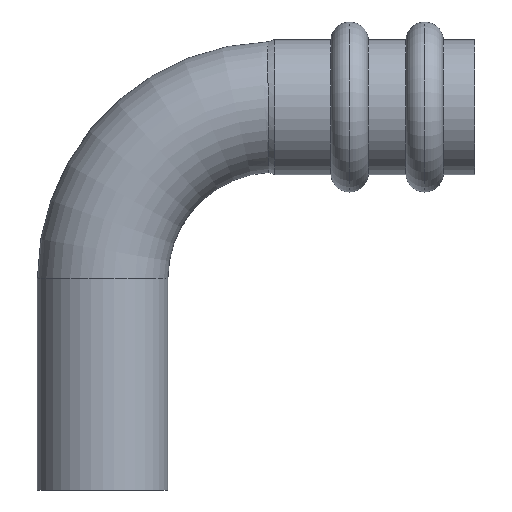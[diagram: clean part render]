
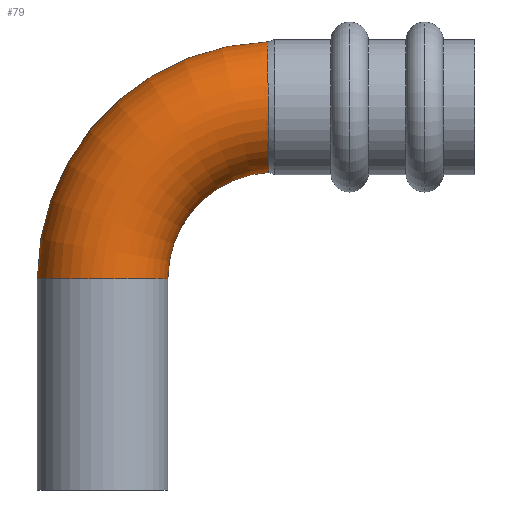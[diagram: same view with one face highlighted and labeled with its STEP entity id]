
A CAD part, front view. The second image highlights one B-rep face of the part: STEP entity #79.
In plain terms, the highlighted toroidal (fillet/blend) face has major radius 27.5 mm and minor radius 10.437 mm.
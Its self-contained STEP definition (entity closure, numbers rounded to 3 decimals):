
#79=ADVANCED_FACE('',(#202),#203,.T.);
#202=FACE_OUTER_BOUND('',#377,.T.);
#203=TOROIDAL_SURFACE('',#378,27.5,10.437);
#377=EDGE_LOOP('',(#553,#554,#555,#556,#557));
#378=AXIS2_PLACEMENT_3D('',#558,#559,#560);
#553=ORIENTED_EDGE('',*,*,#977,.F.);
#554=ORIENTED_EDGE('',*,*,#978,.T.);
#555=ORIENTED_EDGE('',*,*,#979,.T.);
#556=ORIENTED_EDGE('',*,*,#980,.F.);
#557=ORIENTED_EDGE('',*,*,#981,.T.);
#558=CARTESIAN_POINT('',(27.5,0.,34.));
#559=DIRECTION('',(0.,1.0,0.));
#560=DIRECTION('',(1.0,0.,0.0));
#977=EDGE_CURVE('',#1145,#1146,#1147,.T.);
#978=EDGE_CURVE('',#1145,#1148,#1149,.T.);
#979=EDGE_CURVE('',#1148,#1150,#1151,.T.);
#980=EDGE_CURVE('',#1152,#1150,#1153,.T.);
#981=EDGE_CURVE('',#1152,#1146,#1154,.T.);
#1145=VERTEX_POINT('',#1491);
#1146=VERTEX_POINT('',#1492);
#1147=CIRCLE('',#1493,37.937);
#1148=VERTEX_POINT('',#1494);
#1149=CIRCLE('',#1495,10.437);
#1150=VERTEX_POINT('',#1496);
#1151=CIRCLE('',#1497,10.437);
#1152=VERTEX_POINT('',#1498);
#1153=CIRCLE('',#1499,17.063);
#1154=B_SPLINE_CURVE_WITH_KNOTS('',3,(#1500,#1501,#1502,#1503,#1504,#1505,#1506,#1507,#1508,#1509,#1510,#1511,#1512,#1513,#1514,#1515,#1516,#1517,#1518,#1519),.UNSPECIFIED.,.F.,.F.,(4,2,2,2,2,2,2,2,2,4),(-1.295,-1.265,-1.11,-0.947,-0.788,-0.632,-0.476,-0.319,-0.16,-0.0),.UNSPECIFIED.);
#1491=CARTESIAN_POINT('',(-10.437,0.,34.));
#1492=CARTESIAN_POINT('',(26.425,0.,71.922));
#1493=AXIS2_PLACEMENT_3D('',#1884,#1885,#1886);
#1494=CARTESIAN_POINT('',(0.,-10.437,34.));
#1495=AXIS2_PLACEMENT_3D('',#1887,#1888,#1889);
#1496=CARTESIAN_POINT('',(10.437,0.,34.));
#1497=AXIS2_PLACEMENT_3D('',#1890,#1891,#1892);
#1498=CARTESIAN_POINT('',(26.545,0.,51.036));
#1499=AXIS2_PLACEMENT_3D('',#1893,#1894,#1895);
#1500=CARTESIAN_POINT('',(26.545,0.,51.036));
#1501=CARTESIAN_POINT('',(26.545,-0.258,51.036));
#1502=CARTESIAN_POINT('',(26.545,-0.516,51.045));
#1503=CARTESIAN_POINT('',(26.543,-2.078,51.162));
#1504=CARTESIAN_POINT('',(26.54,-3.352,51.503));
#1505=CARTESIAN_POINT('',(26.529,-5.774,52.671));
#1506=CARTESIAN_POINT('',(26.521,-6.887,53.512));
#1507=CARTESIAN_POINT('',(26.505,-8.695,55.55));
#1508=CARTESIAN_POINT('',(26.497,-9.385,56.717));
#1509=CARTESIAN_POINT('',(26.481,-10.277,59.227));
#1510=CARTESIAN_POINT('',(26.473,-10.479,60.544));
#1511=CARTESIAN_POINT('',(26.46,-10.382,63.184));
#1512=CARTESIAN_POINT('',(26.454,-10.083,64.484));
#1513=CARTESIAN_POINT('',(26.443,-9.013,66.913));
#1514=CARTESIAN_POINT('',(26.439,-8.247,68.018));
#1515=CARTESIAN_POINT('',(26.432,-6.332,69.889));
#1516=CARTESIAN_POINT('',(26.429,-5.198,70.635));
#1517=CARTESIAN_POINT('',(26.426,-2.699,71.658));
#1518=CARTESIAN_POINT('',(26.425,-1.356,71.922));
#1519=CARTESIAN_POINT('',(26.425,0.,71.922));
#1884=CARTESIAN_POINT('',(27.5,0.,34.));
#1885=DIRECTION('',(0.,1.0,0.));
#1886=DIRECTION('',(0.0,0.,1.0));
#1887=CARTESIAN_POINT('',(0.0,0.,34.));
#1888=DIRECTION('',(0.,0.,1.0));
#1889=DIRECTION('',(-1.0,0.,0.));
#1890=CARTESIAN_POINT('',(0.0,0.,34.));
#1891=DIRECTION('',(0.,0.,1.0));
#1892=DIRECTION('',(-1.0,0.,0.));
#1893=CARTESIAN_POINT('',(27.5,0.,34.));
#1894=DIRECTION('',(0.,-1.0,0.));
#1895=DIRECTION('',(0.0,0.,1.0));
